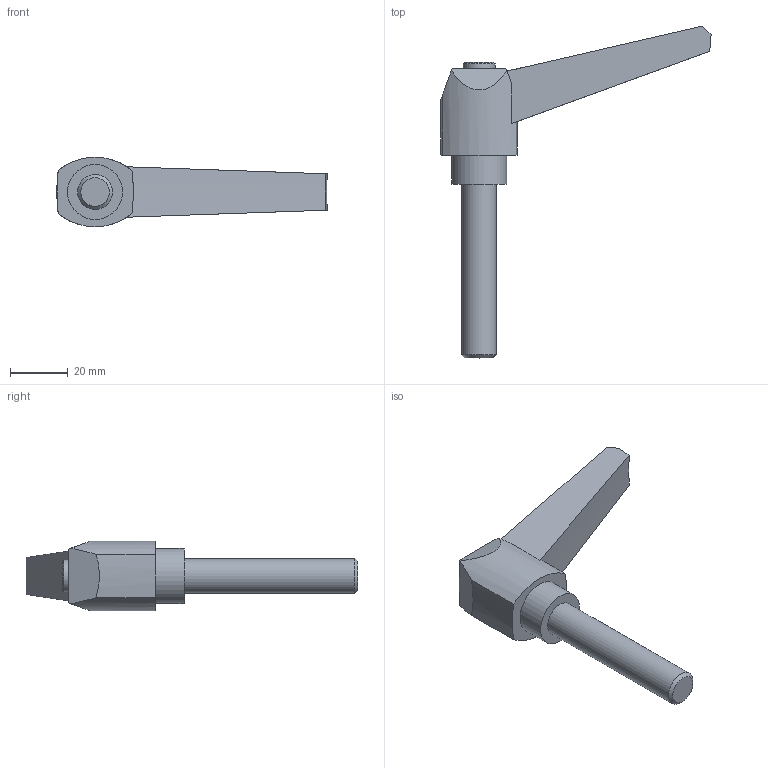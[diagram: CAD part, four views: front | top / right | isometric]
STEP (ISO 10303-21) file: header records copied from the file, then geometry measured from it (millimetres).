
FILE_DESCRIPTION( ( 'STEP AP203' ), '1' );
FILE_NAME( 'C:/Temp/Ganter_Step_05_03_2020/data/2_1/gn_500/gn_500_ms/Adjustable hand lever GN 500-80-M12-60-SW.stp', '2020-03-05T11:26:39', ( 'License CC BY-ND 4.0' ), ( 'CADENAS' ), ' ', 'PARTsolutions', ' ' );
FILE_SCHEMA( ( 'CONFIG_CONTROL_DESIGN' ) );
Length unit declared in the file: millimetre
Products named in the file (1): _Adjustable hand lever GN 500-80-M12-60-SW
Bounding box: 93.3 x 114.58 x 24 mm (x, y, z)
Volume: 39518.6 mm3; surface area: 10136.7 mm2
Topology: 1 solids, 1 shells, 24 faces, 56 edges, 37 vertices
Faces by surface type: plane 11, cylinder 7, cone 6
Full cylindrical faces by diameter (mm): 11 x1, 12 x1, 19 x1
Entity records: 709 total; most frequent: CARTESIAN_POINT 124, DIRECTION 118, ORIENTED_EDGE 100, EDGE_CURVE 50, AXIS2_PLACEMENT_3D 47, VERTEX_POINT 36, EDGE_LOOP 32, FACE_OUTER_BOUND 27
